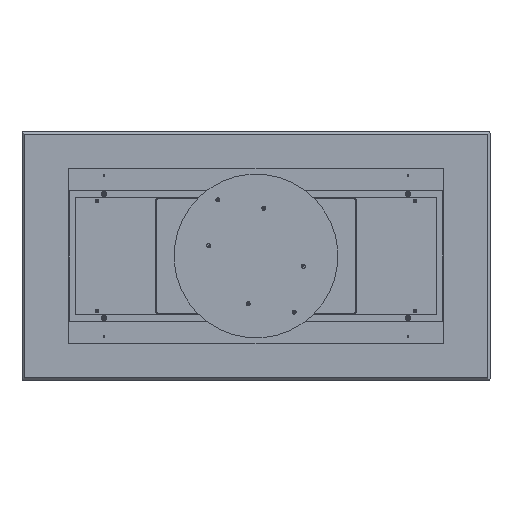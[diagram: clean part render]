
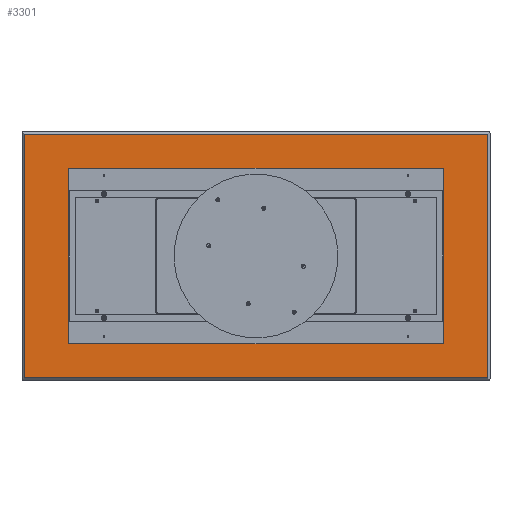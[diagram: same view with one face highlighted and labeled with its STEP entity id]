
A CAD part, front view. The second image highlights one B-rep face of the part: STEP entity #3301.
In plain terms, the highlighted planar face has unit normal (0, -1, 0).
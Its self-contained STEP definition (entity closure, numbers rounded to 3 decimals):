
#120 = CARTESIAN_POINT ( 'NONE',  ( -680., 0., 237.5 ) ) ;
#151 = CIRCLE ( 'NONE', #13178, 2.5 ) ;
#180 = VECTOR ( 'NONE', #22837, 1000. ) ;
#993 = ORIENTED_EDGE ( 'NONE', *, *, #13570, .F. ) ;
#1051 = CARTESIAN_POINT ( 'NONE',  ( -990., 0., 520. ) ) ;
#1176 = AXIS2_PLACEMENT_3D ( 'NONE', #2863, #12528, #6715 ) ;
#1490 = ORIENTED_EDGE ( 'NONE', *, *, #14919, .F. ) ;
#1572 = CARTESIAN_POINT ( 'NONE',  ( 680., 0., -235. ) ) ;
#1624 = DIRECTION ( 'NONE',  ( 0., 0., -1. ) ) ;
#2394 = DIRECTION ( 'NONE',  ( 0., 0., -1. ) ) ;
#2419 = VECTOR ( 'NONE', #14132, 1000. ) ;
#2863 = CARTESIAN_POINT ( 'NONE',  ( 680., 0., -235. ) ) ;
#2896 = CARTESIAN_POINT ( 'NONE',  ( -680., 0., -232.5 ) ) ;
#2970 = EDGE_LOOP ( 'NONE', ( #8325, #993 ) ) ;
#2979 = DIRECTION ( 'NONE',  ( 0., -1., 0. ) ) ;
#3100 = VERTEX_POINT ( 'NONE', #120 ) ;
#3301 = ADVANCED_FACE ( 'NONE', ( #22956, #22836, #5740, #5974, #5611 ), #13044, .F. ) ;
#3549 = CARTESIAN_POINT ( 'NONE',  ( 0., 0., -520. ) ) ;
#3651 = EDGE_LOOP ( 'NONE', ( #1490, #22367 ) ) ;
#4068 = CIRCLE ( 'NONE', #5265, 2.5 ) ;
#4130 = LINE ( 'NONE', #4262, #180 ) ;
#4262 = CARTESIAN_POINT ( 'NONE',  ( 0., 0., 520. ) ) ;
#4554 = ORIENTED_EDGE ( 'NONE', *, *, #19647, .F. ) ;
#4837 = CARTESIAN_POINT ( 'NONE',  ( -680., 0., 235. ) ) ;
#5012 = EDGE_CURVE ( 'NONE', #22457, #15761, #8629, .T. ) ;
#5207 = EDGE_CURVE ( 'NONE', #15761, #11808, #4130, .T. ) ;
#5265 = AXIS2_PLACEMENT_3D ( 'NONE', #4837, #2979, #10536 ) ;
#5410 = CIRCLE ( 'NONE', #19651, 2.5 ) ;
#5611 = FACE_OUTER_BOUND ( 'NONE', #14865, .T. ) ;
#5740 = FACE_BOUND ( 'NONE', #3651, .T. ) ;
#5856 = DIRECTION ( 'NONE',  ( 0., 1., 0. ) ) ;
#5974 = FACE_BOUND ( 'NONE', #19845, .T. ) ;
#6136 = VERTEX_POINT ( 'NONE', #16831 ) ;
#6715 = DIRECTION ( 'NONE',  ( 0., 0., -1. ) ) ;
#6779 = ORIENTED_EDGE ( 'NONE', *, *, #5207, .T. ) ;
#6809 = LINE ( 'NONE', #6934, #2419 ) ;
#6934 = CARTESIAN_POINT ( 'NONE',  ( -990., 0., 0. ) ) ;
#7019 = DIRECTION ( 'NONE',  ( 0., -1., 0. ) ) ;
#7392 = AXIS2_PLACEMENT_3D ( 'NONE', #17370, #15873, #22944 ) ;
#7396 = LINE ( 'NONE', #3549, #19514 ) ;
#7435 = ORIENTED_EDGE ( 'NONE', *, *, #15989, .F. ) ;
#7537 = ORIENTED_EDGE ( 'NONE', *, *, #15406, .T. ) ;
#7853 = CARTESIAN_POINT ( 'NONE',  ( 680., 0., -237.5 ) ) ;
#8325 = ORIENTED_EDGE ( 'NONE', *, *, #15737, .F. ) ;
#8398 = AXIS2_PLACEMENT_3D ( 'NONE', #14905, #5856, #20967 ) ;
#8502 = DIRECTION ( 'NONE',  ( 0., 0., 1. ) ) ;
#8629 = LINE ( 'NONE', #13973, #10462 ) ;
#8940 = CARTESIAN_POINT ( 'NONE',  ( 680., 0., -232.5 ) ) ;
#9240 = VERTEX_POINT ( 'NONE', #2896 ) ;
#9524 = AXIS2_PLACEMENT_3D ( 'NONE', #16782, #13451, #20491 ) ;
#10008 = VERTEX_POINT ( 'NONE', #14992 ) ;
#10462 = VECTOR ( 'NONE', #8502, 1000. ) ;
#10536 = DIRECTION ( 'NONE',  ( 0., 0., -1. ) ) ;
#10636 = VERTEX_POINT ( 'NONE', #7853 ) ;
#10840 = CARTESIAN_POINT ( 'NONE',  ( 680., 0., 237.5 ) ) ;
#11038 = CIRCLE ( 'NONE', #1176, 2.5 ) ;
#11087 = DIRECTION ( 'NONE',  ( 1., 0., 0. ) ) ;
#11682 = CARTESIAN_POINT ( 'NONE',  ( -680., 0., -235. ) ) ;
#11808 = VERTEX_POINT ( 'NONE', #1051 ) ;
#12528 = DIRECTION ( 'NONE',  ( 0., -1., 0. ) ) ;
#12610 = DIRECTION ( 'NONE',  ( 0., 0., -1. ) ) ;
#13044 = PLANE ( 'NONE',  #8398 ) ;
#13057 = CARTESIAN_POINT ( 'NONE',  ( 680., 0., 232.5 ) ) ;
#13178 = AXIS2_PLACEMENT_3D ( 'NONE', #11682, #19242, #2394 ) ;
#13451 = DIRECTION ( 'NONE',  ( 0., -1., 0. ) ) ;
#13570 = EDGE_CURVE ( 'NONE', #21165, #10636, #11038, .T. ) ;
#13721 = CARTESIAN_POINT ( 'NONE',  ( -680., 0., -237.5 ) ) ;
#13765 = ORIENTED_EDGE ( 'NONE', *, *, #22853, .F. ) ;
#13818 = ORIENTED_EDGE ( 'NONE', *, *, #5012, .T. ) ;
#13973 = CARTESIAN_POINT ( 'NONE',  ( 990., 0., 0. ) ) ;
#14132 = DIRECTION ( 'NONE',  ( 0., 0., -1. ) ) ;
#14573 = DIRECTION ( 'NONE',  ( 0., 0., -1. ) ) ;
#14865 = EDGE_LOOP ( 'NONE', ( #7537, #17654, #13818, #6779 ) ) ;
#14905 = CARTESIAN_POINT ( 'NONE',  ( 0., 0., 0. ) ) ;
#14919 = EDGE_CURVE ( 'NONE', #6136, #3100, #20989, .T. ) ;
#14992 = CARTESIAN_POINT ( 'NONE',  ( -990., 0., -520. ) ) ;
#15406 = EDGE_CURVE ( 'NONE', #11808, #10008, #6809, .T. ) ;
#15737 = EDGE_CURVE ( 'NONE', #10636, #21165, #16285, .T. ) ;
#15761 = VERTEX_POINT ( 'NONE', #24106 ) ;
#15831 = VERTEX_POINT ( 'NONE', #10840 ) ;
#15873 = DIRECTION ( 'NONE',  ( 0., -1., 0. ) ) ;
#15989 = EDGE_CURVE ( 'NONE', #19364, #15831, #21815, .T. ) ;
#16258 = AXIS2_PLACEMENT_3D ( 'NONE', #23994, #7019, #14573 ) ;
#16285 = CIRCLE ( 'NONE', #19027, 2.5 ) ;
#16324 = DIRECTION ( 'NONE',  ( 0., -1., 0. ) ) ;
#16593 = ORIENTED_EDGE ( 'NONE', *, *, #22724, .F. ) ;
#16782 = CARTESIAN_POINT ( 'NONE',  ( 680., 0., 235. ) ) ;
#16831 = CARTESIAN_POINT ( 'NONE',  ( -680., 0., 232.5 ) ) ;
#17279 = EDGE_CURVE ( 'NONE', #3100, #6136, #4068, .T. ) ;
#17370 = CARTESIAN_POINT ( 'NONE',  ( 680., 0., 235. ) ) ;
#17423 = CARTESIAN_POINT ( 'NONE',  ( 990., 0., -520. ) ) ;
#17654 = ORIENTED_EDGE ( 'NONE', *, *, #17703, .T. ) ;
#17703 = EDGE_CURVE ( 'NONE', #10008, #22457, #7396, .T. ) ;
#17820 = VERTEX_POINT ( 'NONE', #13721 ) ;
#18076 = CIRCLE ( 'NONE', #7392, 2.5 ) ;
#18607 = DIRECTION ( 'NONE',  ( 0., -1., 0. ) ) ;
#19027 = AXIS2_PLACEMENT_3D ( 'NONE', #1572, #16324, #12610 ) ;
#19242 = DIRECTION ( 'NONE',  ( 0., -1., 0. ) ) ;
#19364 = VERTEX_POINT ( 'NONE', #13057 ) ;
#19514 = VECTOR ( 'NONE', #11087, 1000. ) ;
#19647 = EDGE_CURVE ( 'NONE', #9240, #17820, #151, .T. ) ;
#19651 = AXIS2_PLACEMENT_3D ( 'NONE', #22821, #18607, #1624 ) ;
#19845 = EDGE_LOOP ( 'NONE', ( #7435, #13765 ) ) ;
#20491 = DIRECTION ( 'NONE',  ( 0., 0., -1. ) ) ;
#20967 = DIRECTION ( 'NONE',  ( 0., 0., 1. ) ) ;
#20989 = CIRCLE ( 'NONE', #16258, 2.5 ) ;
#21165 = VERTEX_POINT ( 'NONE', #8940 ) ;
#21815 = CIRCLE ( 'NONE', #9524, 2.5 ) ;
#22367 = ORIENTED_EDGE ( 'NONE', *, *, #17279, .F. ) ;
#22457 = VERTEX_POINT ( 'NONE', #17423 ) ;
#22724 = EDGE_CURVE ( 'NONE', #17820, #9240, #5410, .T. ) ;
#22821 = CARTESIAN_POINT ( 'NONE',  ( -680., 0., -235. ) ) ;
#22836 = FACE_BOUND ( 'NONE', #23997, .T. ) ;
#22837 = DIRECTION ( 'NONE',  ( -1., 0., 0. ) ) ;
#22853 = EDGE_CURVE ( 'NONE', #15831, #19364, #18076, .T. ) ;
#22944 = DIRECTION ( 'NONE',  ( 0., 0., -1. ) ) ;
#22956 = FACE_BOUND ( 'NONE', #2970, .T. ) ;
#23994 = CARTESIAN_POINT ( 'NONE',  ( -680., 0., 235. ) ) ;
#23997 = EDGE_LOOP ( 'NONE', ( #16593, #4554 ) ) ;
#24106 = CARTESIAN_POINT ( 'NONE',  ( 990., 0., 520. ) ) ;
